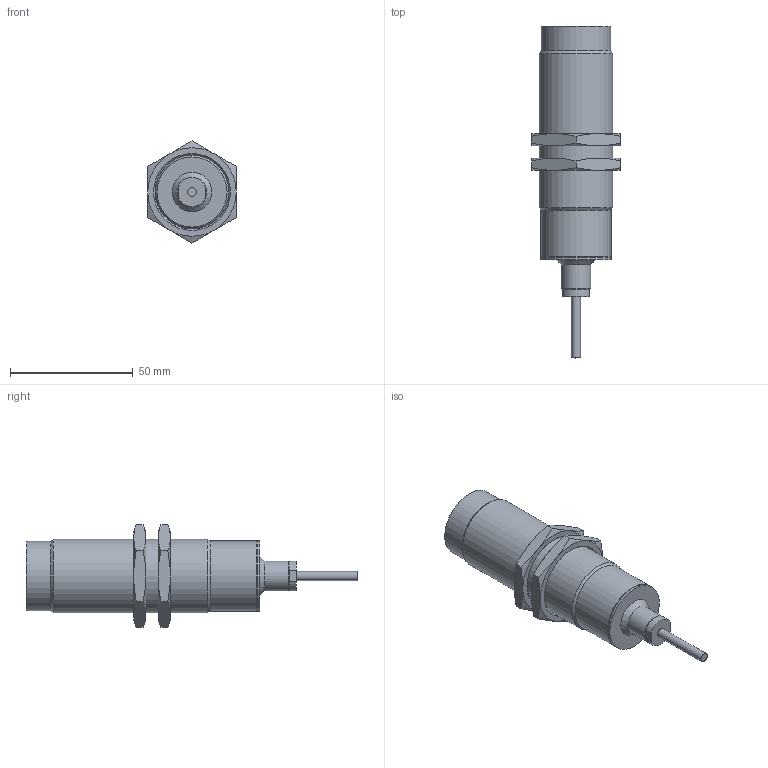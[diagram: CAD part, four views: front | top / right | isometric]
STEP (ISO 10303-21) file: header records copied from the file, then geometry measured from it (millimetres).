
FILE_DESCRIPTION((''),'2;1');
FILE_NAME('C:\TurckZip\Ni-EM30-S907.stp','2009-03-12T15:18:51',('IKOROL'),(''),'Autodesk Inventor 2009','Autodesk Inventor 2009','');
FILE_SCHEMA(('CONFIG_CONTROL_DESIGN'));
Length unit declared in the file: millimetre
Products named in the file (1): Part2
Bounding box: 36 x 135 x 41.57 mm (x, y, z)
Volume: 70896 mm3; surface area: 13167.5 mm2
Topology: 1 solids, 1 shells, 69 faces, 145 edges, 88 vertices
Faces by surface type: cone 31, plane 26, cylinder 12
Full cylindrical faces by diameter (mm): 3.7 x1, 10.335 x1, 12 x1, 28.057 x1, 28.379 x1, 28.47 x2, 30 x3
Entity records: 1751 total; most frequent: CARTESIAN_POINT 368, DIRECTION 266, ORIENTED_EDGE 242, AXIS2_PLACEMENT_3D 123, EDGE_CURVE 121, EDGE_LOOP 96, VERTEX_POINT 81, FACE_OUTER_BOUND 69
